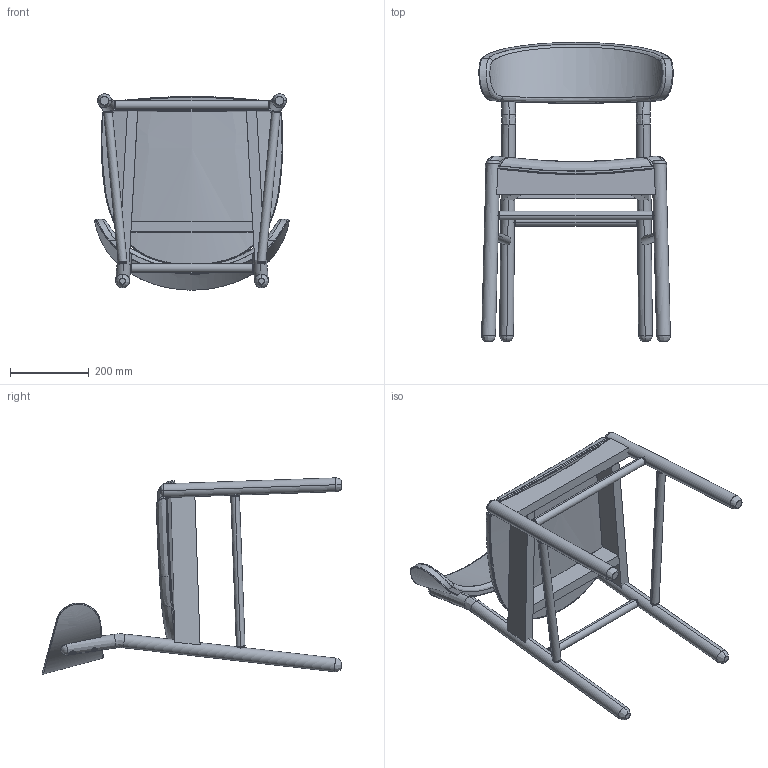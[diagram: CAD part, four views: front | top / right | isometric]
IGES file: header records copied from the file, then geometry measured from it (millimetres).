
Start section: SolidWorks IGES file using analytic representation for surfaces
Global section: file name: C:\Users\adao\Documents\Trab Adao\Desenho técnico PRODUÇÃO\J M S\Catalogo MORE 2016\CAMILLE\CADEIRA\(3D) CADEIRA CAMILLE\(3D) CADEIRA CAMILLE M986 UU.IGS; native system: SolidWorks 2017; preprocessor: SolidWorks 2017; author: Adao; date: 170427.094106; units: millimetre
Bounding box: 493.17 x 759.88 x 498.25 mm (x, y, z)
Surface area: 1199122.6 mm2 (no closed solid volume)
Topology: 0 solids, 0 shells, 382 faces, 4488 edges, 4485 vertices
Faces by surface type: bspline 230, revolution 152
